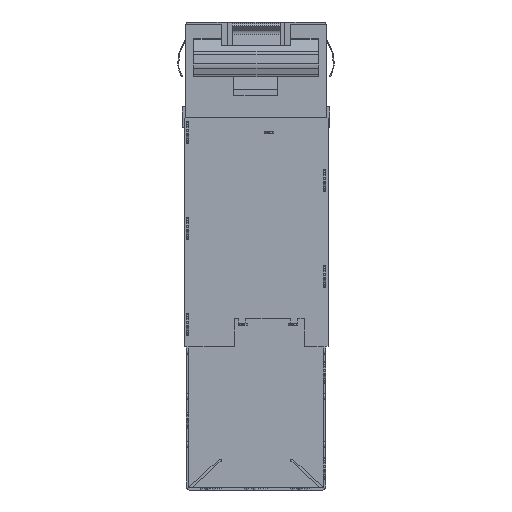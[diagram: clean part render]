
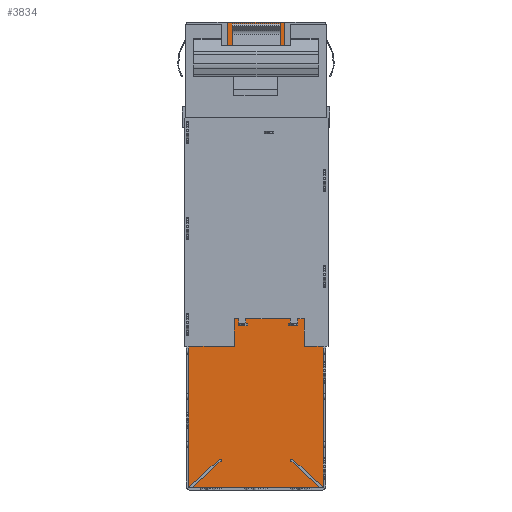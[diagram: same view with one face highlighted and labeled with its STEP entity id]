
A CAD part, front view. The second image highlights one B-rep face of the part: STEP entity #3834.
In plain terms, the highlighted planar face has unit normal (0, -1, 0).
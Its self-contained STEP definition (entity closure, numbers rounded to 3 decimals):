
#546 = ORIENTED_EDGE ( 'NONE', *, *, #5639, .T. ) ;
#807 = LINE ( 'NONE', #8825, #1391 ) ;
#1100 = DIRECTION ( 'NONE',  ( -1., 0., 0. ) ) ;
#1391 = VECTOR ( 'NONE', #1100, 1000. ) ;
#1448 = VERTEX_POINT ( 'NONE', #6025 ) ;
#1984 = DIRECTION ( 'NONE',  ( 0., 0., 1. ) ) ;
#3344 = CARTESIAN_POINT ( 'NONE',  ( 7., 9.2, -65.366 ) ) ;
#3750 = VECTOR ( 'NONE', #4294, 1000. ) ;
#3834 = ADVANCED_FACE ( 'NONE', ( #5747 ), #4422, .F. ) ;
#4191 = EDGE_LOOP ( 'NONE', ( #15722, #546, #12567, #13674 ) ) ;
#4294 = DIRECTION ( 'NONE',  ( 0., 0., 1. ) ) ;
#4422 = PLANE ( 'NONE',  #6368 ) ;
#4975 = LINE ( 'NONE', #6688, #3750 ) ;
#5368 = EDGE_CURVE ( 'NONE', #1448, #15524, #15317, .T. ) ;
#5639 = EDGE_CURVE ( 'NONE', #15524, #10685, #807, .T. ) ;
#5747 = FACE_OUTER_BOUND ( 'NONE', #4191, .T. ) ;
#5754 = CARTESIAN_POINT ( 'NONE',  ( -7., 9.2, -48.5 ) ) ;
#6025 = CARTESIAN_POINT ( 'NONE',  ( 7., 9.2, -48.5 ) ) ;
#6368 = AXIS2_PLACEMENT_3D ( 'NONE', #7049, #13349, #12107 ) ;
#6688 = CARTESIAN_POINT ( 'NONE',  ( -7., 9.2, -65.366 ) ) ;
#7049 = CARTESIAN_POINT ( 'NONE',  ( 7., 9.2, -65.366 ) ) ;
#7159 = EDGE_CURVE ( 'NONE', #15121, #10685, #4975, .T. ) ;
#7525 = CARTESIAN_POINT ( 'NONE',  ( 7., 9.2, -48.5 ) ) ;
#7606 = EDGE_CURVE ( 'NONE', #1448, #15121, #16225, .T. ) ;
#8825 = CARTESIAN_POINT ( 'NONE',  ( 7., 9.2, 0. ) ) ;
#9139 = DIRECTION ( 'NONE',  ( -1., 0., 0. ) ) ;
#10685 = VERTEX_POINT ( 'NONE', #15391 ) ;
#11906 = VECTOR ( 'NONE', #1984, 1000. ) ;
#12107 = DIRECTION ( 'NONE',  ( 0., 0., 1. ) ) ;
#12567 = ORIENTED_EDGE ( 'NONE', *, *, #7159, .F. ) ;
#13036 = VECTOR ( 'NONE', #9139, 1000. ) ;
#13180 = CARTESIAN_POINT ( 'NONE',  ( 7., 9.2, 0. ) ) ;
#13349 = DIRECTION ( 'NONE',  ( 0., 1., 0. ) ) ;
#13674 = ORIENTED_EDGE ( 'NONE', *, *, #7606, .F. ) ;
#15121 = VERTEX_POINT ( 'NONE', #5754 ) ;
#15317 = LINE ( 'NONE', #3344, #11906 ) ;
#15391 = CARTESIAN_POINT ( 'NONE',  ( -7., 9.2, 0. ) ) ;
#15524 = VERTEX_POINT ( 'NONE', #13180 ) ;
#15722 = ORIENTED_EDGE ( 'NONE', *, *, #5368, .T. ) ;
#16225 = LINE ( 'NONE', #7525, #13036 ) ;
